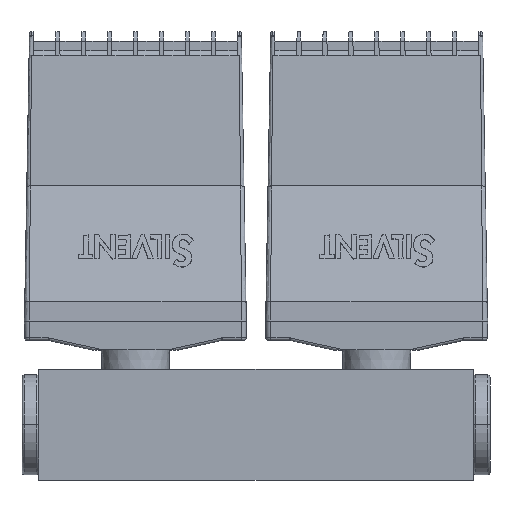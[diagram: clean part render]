
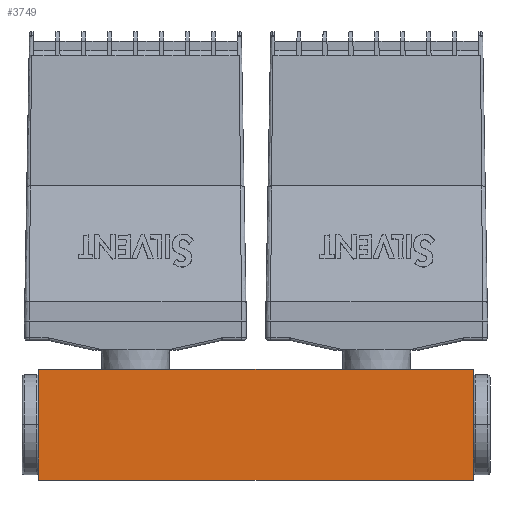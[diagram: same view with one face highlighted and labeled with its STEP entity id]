
A CAD part, top view. The second image highlights one B-rep face of the part: STEP entity #3749.
In plain terms, the highlighted planar face has unit normal (0, 0, 1).
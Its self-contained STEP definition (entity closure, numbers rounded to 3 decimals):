
#3711 = VERTEX_POINT ( 'NONE', #12108 ) ;
#3719 = EDGE_CURVE ( 'NONE', #3724, #3711, #12093, .T. ) ;
#3723 = VERTEX_POINT ( 'NONE', #12132 ) ;
#3724 = VERTEX_POINT ( 'NONE', #12119 ) ;
#3749 = ADVANCED_FACE ( 'NONE', ( #12229 ), #12223, .F. ) ;
#3752 = ORIENTED_EDGE ( 'NONE', *, *, #3719, .F. ) ;
#3753 = ORIENTED_EDGE ( 'NONE', *, *, #3825, .T. ) ;
#3760 = EDGE_CURVE ( 'NONE', #3776, #3723, #12213, .T. ) ;
#3765 = EDGE_LOOP ( 'NONE', ( #3778, #3826, #3752, #3753 ) ) ;
#3776 = VERTEX_POINT ( 'NONE', #12218 ) ;
#3777 = EDGE_CURVE ( 'NONE', #3711, #3723, #12255, .T. ) ;
#3778 = ORIENTED_EDGE ( 'NONE', *, *, #3760, .T. ) ;
#3825 = EDGE_CURVE ( 'NONE', #3724, #3776, #12409, .T. ) ;
#3826 = ORIENTED_EDGE ( 'NONE', *, *, #3777, .F. ) ;
#12078 = DIRECTION ( 'NONE',  ( 0., -1., 0. ) ) ;
#12079 = VECTOR ( 'NONE', #12078, 1000. ) ;
#12080 = CARTESIAN_POINT ( 'NONE',  ( 45., 0., 0. ) ) ;
#12093 = LINE ( 'NONE', #12080, #12079 ) ;
#12108 = CARTESIAN_POINT ( 'NONE',  ( 45., 0., 0. ) ) ;
#12119 = CARTESIAN_POINT ( 'NONE',  ( 45., 23., 0. ) ) ;
#12132 = CARTESIAN_POINT ( 'NONE',  ( -45., 0., 0. ) ) ;
#12185 = DIRECTION ( 'NONE',  ( 0., 0., -1. ) ) ;
#12186 = CARTESIAN_POINT ( 'NONE',  ( 45., 0., 0. ) ) ;
#12213 = LINE ( 'NONE', #12265, #12264 ) ;
#12218 = CARTESIAN_POINT ( 'NONE',  ( -45., 23., 0. ) ) ;
#12219 = DIRECTION ( 'NONE',  ( -1., 0., 0. ) ) ;
#12223 = PLANE ( 'NONE',  #12224 ) ;
#12224 = AXIS2_PLACEMENT_3D ( 'NONE', #12186, #12185, #12219 ) ;
#12229 = FACE_OUTER_BOUND ( 'NONE', #3765, .T. ) ;
#12239 = VECTOR ( 'NONE', #12249, 1000. ) ;
#12249 = DIRECTION ( 'NONE',  ( -1., 0., 0. ) ) ;
#12250 = CARTESIAN_POINT ( 'NONE',  ( 45., 0., 0. ) ) ;
#12255 = LINE ( 'NONE', #12250, #12239 ) ;
#12263 = DIRECTION ( 'NONE',  ( 0., -1., 0. ) ) ;
#12264 = VECTOR ( 'NONE', #12263, 1000. ) ;
#12265 = CARTESIAN_POINT ( 'NONE',  ( -45., 0., 0. ) ) ;
#12406 = DIRECTION ( 'NONE',  ( -1., 0., 0. ) ) ;
#12407 = VECTOR ( 'NONE', #12406, 1000. ) ;
#12408 = CARTESIAN_POINT ( 'NONE',  ( 45., 23., 0. ) ) ;
#12409 = LINE ( 'NONE', #12408, #12407 ) ;
